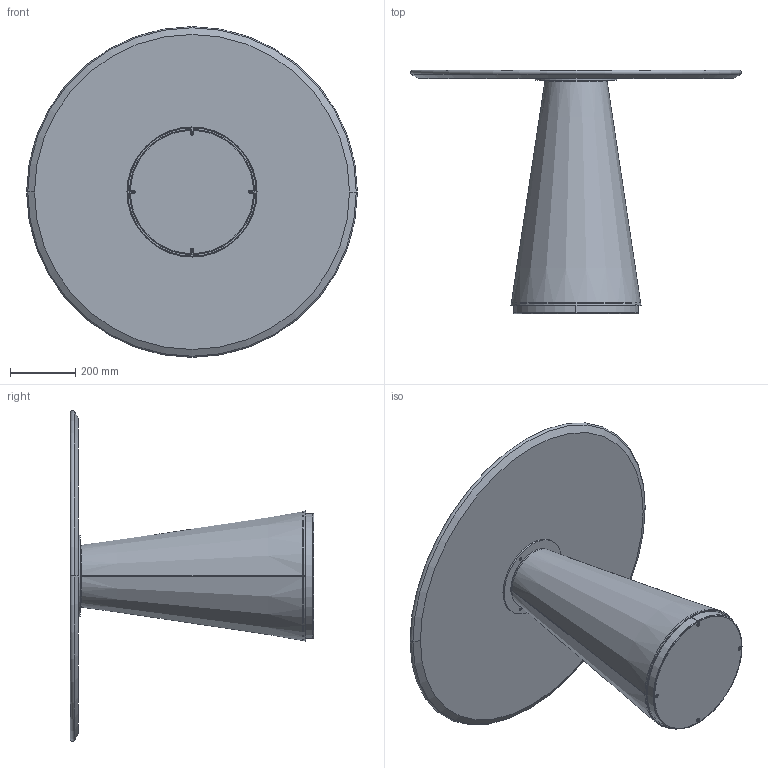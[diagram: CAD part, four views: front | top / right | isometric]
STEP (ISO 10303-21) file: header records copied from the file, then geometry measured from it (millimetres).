
FILE_DESCRIPTION (( 'STEP AP203' ), '1' );
FILE_NAME ('TE30A.STEP', '2024-08-08T07:49:20', ( '' ), ( '' ), 'SwSTEP 2.0', 'SolidWorks 2022', '' );
FILE_SCHEMA (( 'CONFIG_CONTROL_DESIGN' ));
Length unit declared in the file: millimetre
Products named in the file (10): C1XCRMXX-00-piani Rotondi Cristallo_C03 D.100cm; BOMB0001-00-PIANO LEGNO CON INCASSO Ø100_MDF per Ø100cm; M6xXXmm_HEX_M6x40mm HEX; TED000000TCONO-00-TED CONO; TED000000PIA-00-TED PIASTRA SOPRA; M6xXXmm_HEX_M6x20mm HEX; Assieme piani incassatti cristallo_Ø100cm; TED000000BAS_01-00-TED PIASTRA; TE30A; Assieme BASE TED
Assembly tree (15 placements, depth 3):
  TE30A
    Assieme piani incassatti cristallo_Ø100cm
      BOMB0001-00-PIANO LEGNO CON INCASSO Ø100_MDF per Ø100cm
      C1XCRMXX-00-piani Rotondi Cristallo_C03 D.100cm
    Assieme BASE TED
      TED000000BAS_01-00-TED PIASTRA
      TED000000PIA-00-TED PIASTRA SOPRA
      TED000000TCONO-00-TED CONO
      M6xXXmm_HEX_M6x20mm HEX  x4
      M6xXXmm_HEX_M6x40mm HEX  x4
Bounding box: 1017 x 748.5 x 1017 mm (x, y, z)
Volume: 24251150 mm3; surface area: 5086711.7 mm2
Topology: 15 solids, 15 shells, 373 faces, 785 edges, 436 vertices
Faces by surface type: plane 178, cylinder 111, cone 62, torus 22
Entity records: 6045 total; most frequent: DIRECTION 969, CARTESIAN_POINT 788, ORIENTED_EDGE 746, AXIS2_PLACEMENT_3D 407, EDGE_CURVE 373, VERTEX_POINT 226, EDGE_LOOP 223, CIRCLE 218
